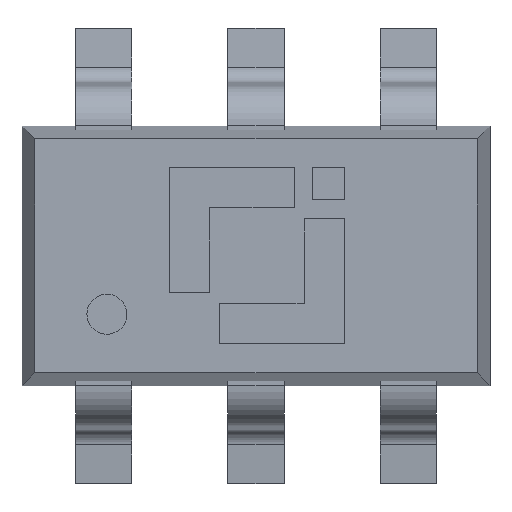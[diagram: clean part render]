
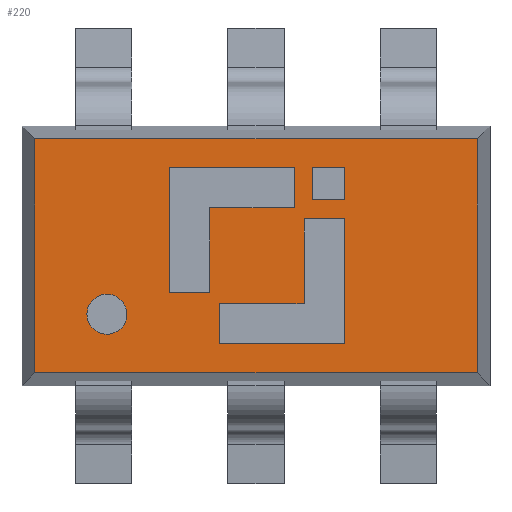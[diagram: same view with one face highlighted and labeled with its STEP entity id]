
A CAD part, top view. The second image highlights one B-rep face of the part: STEP entity #220.
In plain terms, the highlighted planar face has unit normal (0, 0, 1).
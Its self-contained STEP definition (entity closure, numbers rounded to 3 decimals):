
#27=CARTESIAN_POINT('',(0.,0.,1.1));
#28=DIRECTION('',(0.,0.,1.));
#29=DIRECTION('',(1.,0.,0.));
#30=AXIS2_PLACEMENT_3D('',#27,#28,#29);
#31=PLANE('',#30);
#32=CARTESIAN_POINT('',(0.35,0.35,1.1));
#33=VERTEX_POINT('',#32);
#34=CARTESIAN_POINT('',(0.55,0.35,1.1));
#35=VERTEX_POINT('',#34);
#36=CARTESIAN_POINT('',(0.35,0.35,1.1));
#37=DIRECTION('',(1.,0.,-0.));
#38=VECTOR('',#37,0.2);
#39=LINE('',#36,#38);
#40=EDGE_CURVE('',#33,#35,#39,.T.);
#41=ORIENTED_EDGE('',*,*,#40,.F.);
#42=CARTESIAN_POINT('',(0.35,0.55,1.1));
#43=VERTEX_POINT('',#42);
#44=CARTESIAN_POINT('',(0.35,0.55,1.1));
#45=DIRECTION('',(0.,-1.,0.));
#46=VECTOR('',#45,0.2);
#47=LINE('',#44,#46);
#48=EDGE_CURVE('',#43,#33,#47,.T.);
#49=ORIENTED_EDGE('',*,*,#48,.F.);
#50=CARTESIAN_POINT('',(0.55,0.55,1.1));
#51=VERTEX_POINT('',#50);
#52=CARTESIAN_POINT('',(0.55,0.55,1.1));
#53=DIRECTION('',(-1.,0.,0.));
#54=VECTOR('',#53,0.2);
#55=LINE('',#52,#54);
#56=EDGE_CURVE('',#51,#43,#55,.T.);
#57=ORIENTED_EDGE('',*,*,#56,.F.);
#58=CARTESIAN_POINT('',(0.55,0.35,1.1));
#59=DIRECTION('',(0.,1.,0.));
#60=VECTOR('',#59,0.2);
#61=LINE('',#58,#60);
#62=EDGE_CURVE('',#35,#51,#61,.T.);
#63=ORIENTED_EDGE('',*,*,#62,.F.);
#64=EDGE_LOOP('',(#41,#49,#57,#63));
#65=FACE_BOUND('',#64,.T.);
#66=CARTESIAN_POINT('',(-0.891,-0.246,1.1));
#67=VERTEX_POINT('',#66);
#68=CARTESIAN_POINT('',(-0.805,-0.365,1.1));
#69=VERTEX_POINT('',#68);
#70=CARTESIAN_POINT('',(-0.93,-0.365,1.1));
#71=DIRECTION('',(0.,0.,1.));
#72=DIRECTION('',(1.,0.,-0.));
#73=AXIS2_PLACEMENT_3D('',#70,#71,#72);
#74=CIRCLE('',#73,0.125);
#75=EDGE_CURVE('',#67,#69,#74,.T.);
#76=ORIENTED_EDGE('',*,*,#75,.F.);
#77=CARTESIAN_POINT('',(-0.93,-0.365,1.1));
#78=DIRECTION('',(0.,0.,1.));
#79=DIRECTION('',(1.,0.,-0.));
#80=AXIS2_PLACEMENT_3D('',#77,#78,#79);
#81=CIRCLE('',#80,0.125);
#82=EDGE_CURVE('',#69,#67,#81,.T.);
#83=ORIENTED_EDGE('',*,*,#82,.F.);
#84=EDGE_LOOP('',(#76,#83));
#85=FACE_BOUND('',#84,.T.);
#86=CARTESIAN_POINT('',(-1.38,0.73,1.1));
#87=VERTEX_POINT('',#86);
#88=CARTESIAN_POINT('',(-1.38,-0.73,1.1));
#89=VERTEX_POINT('',#88);
#90=CARTESIAN_POINT('',(-1.38,0.73,1.1));
#91=DIRECTION('',(-0.,-1.,0.));
#92=VECTOR('',#91,1.46);
#93=LINE('',#90,#92);
#94=EDGE_CURVE('',#87,#89,#93,.T.);
#95=ORIENTED_EDGE('',*,*,#94,.T.);
#96=CARTESIAN_POINT('',(1.38,-0.73,1.1));
#97=VERTEX_POINT('',#96);
#98=CARTESIAN_POINT('',(-1.38,-0.73,1.1));
#99=DIRECTION('',(1.,0.,0.));
#100=VECTOR('',#99,2.76);
#101=LINE('',#98,#100);
#102=EDGE_CURVE('',#89,#97,#101,.T.);
#103=ORIENTED_EDGE('',*,*,#102,.T.);
#104=CARTESIAN_POINT('',(1.38,0.73,1.1));
#105=VERTEX_POINT('',#104);
#106=CARTESIAN_POINT('',(1.38,-0.73,1.1));
#107=DIRECTION('',(-0.,1.,0.));
#108=VECTOR('',#107,1.46);
#109=LINE('',#106,#108);
#110=EDGE_CURVE('',#97,#105,#109,.T.);
#111=ORIENTED_EDGE('',*,*,#110,.T.);
#112=CARTESIAN_POINT('',(1.38,0.73,1.1));
#113=DIRECTION('',(-1.,-0.,0.));
#114=VECTOR('',#113,2.76);
#115=LINE('',#112,#114);
#116=EDGE_CURVE('',#105,#87,#115,.T.);
#117=ORIENTED_EDGE('',*,*,#116,.T.);
#118=EDGE_LOOP('',(#95,#103,#111,#117));
#119=FACE_BOUND('',#118,.T.);
#120=CARTESIAN_POINT('',(0.3,0.23,1.1));
#121=VERTEX_POINT('',#120);
#122=CARTESIAN_POINT('',(0.55,0.23,1.1));
#123=VERTEX_POINT('',#122);
#124=CARTESIAN_POINT('',(0.3,0.23,1.1));
#125=DIRECTION('',(1.,0.,-0.));
#126=VECTOR('',#125,0.25);
#127=LINE('',#124,#126);
#128=EDGE_CURVE('',#121,#123,#127,.T.);
#129=ORIENTED_EDGE('',*,*,#128,.T.);
#130=CARTESIAN_POINT('',(0.55,-0.55,1.1));
#131=VERTEX_POINT('',#130);
#132=CARTESIAN_POINT('',(0.55,0.23,1.1));
#133=DIRECTION('',(0.,-1.,0.));
#134=VECTOR('',#133,0.78);
#135=LINE('',#132,#134);
#136=EDGE_CURVE('',#123,#131,#135,.T.);
#137=ORIENTED_EDGE('',*,*,#136,.T.);
#138=CARTESIAN_POINT('',(-0.23,-0.55,1.1));
#139=VERTEX_POINT('',#138);
#140=CARTESIAN_POINT('',(0.55,-0.55,1.1));
#141=DIRECTION('',(-1.,0.,0.));
#142=VECTOR('',#141,0.78);
#143=LINE('',#140,#142);
#144=EDGE_CURVE('',#131,#139,#143,.T.);
#145=ORIENTED_EDGE('',*,*,#144,.T.);
#146=CARTESIAN_POINT('',(-0.23,-0.3,1.1));
#147=VERTEX_POINT('',#146);
#148=CARTESIAN_POINT('',(-0.23,-0.55,1.1));
#149=DIRECTION('',(0.,1.,0.));
#150=VECTOR('',#149,0.25);
#151=LINE('',#148,#150);
#152=EDGE_CURVE('',#139,#147,#151,.T.);
#153=ORIENTED_EDGE('',*,*,#152,.T.);
#154=CARTESIAN_POINT('',(0.3,-0.3,1.1));
#155=VERTEX_POINT('',#154);
#156=CARTESIAN_POINT('',(-0.23,-0.3,1.1));
#157=DIRECTION('',(1.,0.,-0.));
#158=VECTOR('',#157,0.53);
#159=LINE('',#156,#158);
#160=EDGE_CURVE('',#147,#155,#159,.T.);
#161=ORIENTED_EDGE('',*,*,#160,.T.);
#162=CARTESIAN_POINT('',(0.3,-0.3,1.1));
#163=DIRECTION('',(0.,1.,0.));
#164=VECTOR('',#163,0.53);
#165=LINE('',#162,#164);
#166=EDGE_CURVE('',#155,#121,#165,.T.);
#167=ORIENTED_EDGE('',*,*,#166,.T.);
#168=EDGE_LOOP('',(#129,#137,#145,#153,#161,#167));
#169=FACE_BOUND('',#168,.T.);
#170=CARTESIAN_POINT('',(-0.54,0.55,1.1));
#171=VERTEX_POINT('',#170);
#172=CARTESIAN_POINT('',(0.24,0.55,1.1));
#173=VERTEX_POINT('',#172);
#174=CARTESIAN_POINT('',(-0.54,0.55,1.1));
#175=DIRECTION('',(1.,0.,-0.));
#176=VECTOR('',#175,0.78);
#177=LINE('',#174,#176);
#178=EDGE_CURVE('',#171,#173,#177,.T.);
#179=ORIENTED_EDGE('',*,*,#178,.T.);
#180=CARTESIAN_POINT('',(0.24,0.3,1.1));
#181=VERTEX_POINT('',#180);
#182=CARTESIAN_POINT('',(0.24,0.55,1.1));
#183=DIRECTION('',(0.,-1.,0.));
#184=VECTOR('',#183,0.25);
#185=LINE('',#182,#184);
#186=EDGE_CURVE('',#173,#181,#185,.T.);
#187=ORIENTED_EDGE('',*,*,#186,.T.);
#188=CARTESIAN_POINT('',(-0.29,0.3,1.1));
#189=VERTEX_POINT('',#188);
#190=CARTESIAN_POINT('',(0.24,0.3,1.1));
#191=DIRECTION('',(-1.,0.,0.));
#192=VECTOR('',#191,0.53);
#193=LINE('',#190,#192);
#194=EDGE_CURVE('',#181,#189,#193,.T.);
#195=ORIENTED_EDGE('',*,*,#194,.T.);
#196=CARTESIAN_POINT('',(-0.29,-0.23,1.1));
#197=VERTEX_POINT('',#196);
#198=CARTESIAN_POINT('',(-0.29,0.3,1.1));
#199=DIRECTION('',(0.,-1.,0.));
#200=VECTOR('',#199,0.53);
#201=LINE('',#198,#200);
#202=EDGE_CURVE('',#189,#197,#201,.T.);
#203=ORIENTED_EDGE('',*,*,#202,.T.);
#204=CARTESIAN_POINT('',(-0.54,-0.23,1.1));
#205=VERTEX_POINT('',#204);
#206=CARTESIAN_POINT('',(-0.29,-0.23,1.1));
#207=DIRECTION('',(-1.,-0.,0.));
#208=VECTOR('',#207,0.25);
#209=LINE('',#206,#208);
#210=EDGE_CURVE('',#197,#205,#209,.T.);
#211=ORIENTED_EDGE('',*,*,#210,.T.);
#212=CARTESIAN_POINT('',(-0.54,-0.23,1.1));
#213=DIRECTION('',(0.,1.,0.));
#214=VECTOR('',#213,0.78);
#215=LINE('',#212,#214);
#216=EDGE_CURVE('',#205,#171,#215,.T.);
#217=ORIENTED_EDGE('',*,*,#216,.T.);
#218=EDGE_LOOP('',(#179,#187,#195,#203,#211,#217));
#219=FACE_BOUND('',#218,.T.);
#220=ADVANCED_FACE('',(#65,#85,#119,#169,#219),#31,.T.);
